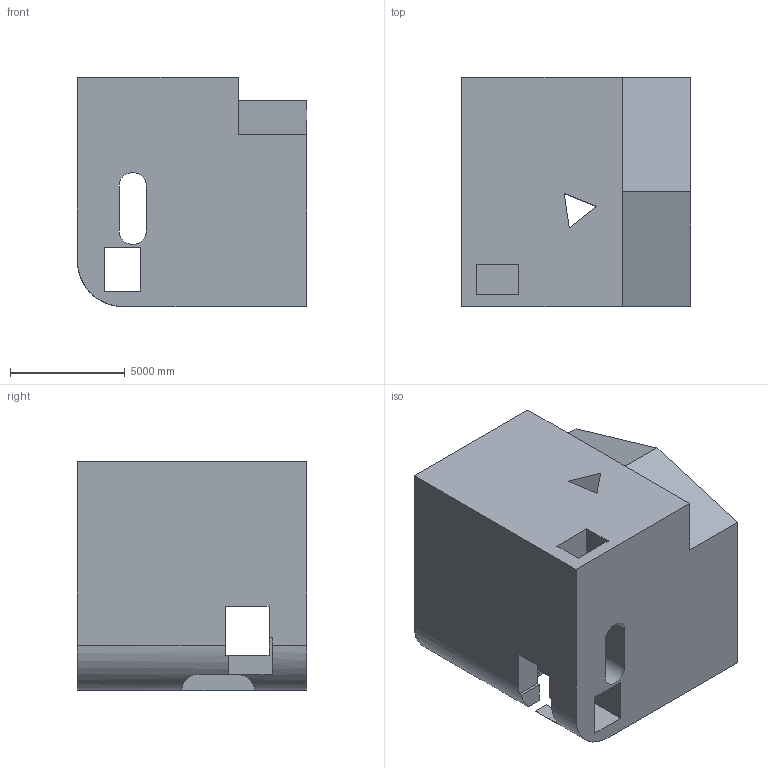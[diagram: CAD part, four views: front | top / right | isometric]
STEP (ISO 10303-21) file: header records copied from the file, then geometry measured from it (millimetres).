
FILE_DESCRIPTION (( 'STEP AP203' ), '1' );
FILE_NAME ('399.STEP', '2022-09-07T15:32:19', ( 'user' ), ( '' ), 'SwSTEP 2.0', 'SolidWorks 2021', '' );
FILE_SCHEMA (( 'CONFIG_CONTROL_DESIGN' ));
Length unit declared in the file: centimetre
Products named in the file (1): 399
Bounding box: 10000 x 10000 x 10000 mm (x, y, z)
Volume: 797935360763.1 mm3; surface area: 837566095.6 mm2
Topology: 1 solids, 1 shells, 53 faces, 174 edges, 116 vertices
Faces by surface type: plane 45, cylinder 8
Entity records: 2156 total; most frequent: CARTESIAN_POINT 521, ORIENTED_EDGE 348, DIRECTION 296, EDGE_CURVE 174, LINE 150, VECTOR 150, VERTEX_POINT 116, AXIS2_PLACEMENT_3D 73
